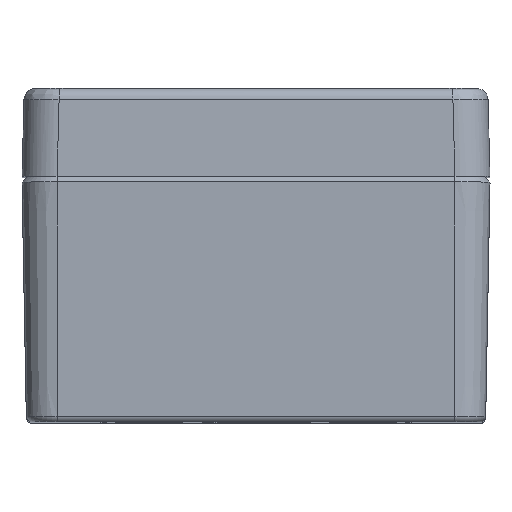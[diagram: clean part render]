
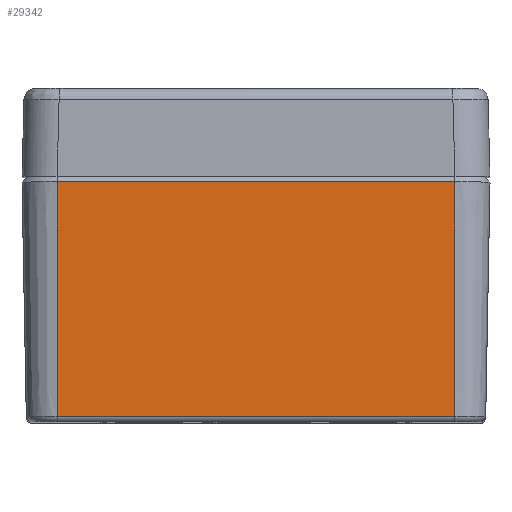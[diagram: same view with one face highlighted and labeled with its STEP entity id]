
A CAD part, top view. The second image highlights one B-rep face of the part: STEP entity #29342.
In plain terms, the highlighted planar face has unit normal (0, -0.018, 1).
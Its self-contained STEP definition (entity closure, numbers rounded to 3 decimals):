
#2218 = PLANE ( 'NONE',  #43049 ) ;
#4224 = ORIENTED_EDGE ( 'NONE', *, *, #7750, .F. ) ;
#4920 = EDGE_CURVE ( 'NONE', #5351, #37313, #44729, .T. ) ;
#5351 = VERTEX_POINT ( 'NONE', #27929 ) ;
#6010 = DIRECTION ( 'NONE',  ( 0., -1., -0.018 ) ) ;
#6394 = CARTESIAN_POINT ( 'NONE',  ( 34., 20., 87.5 ) ) ;
#6606 = EDGE_LOOP ( 'NONE', ( #39719, #43792, #16274, #4224 ) ) ;
#7430 = CARTESIAN_POINT ( 'NONE',  ( -34., 20., 87.5 ) ) ;
#7750 = EDGE_CURVE ( 'NONE', #37625, #5351, #38350, .T. ) ;
#7874 = CARTESIAN_POINT ( 'NONE',  ( 34., -20.018, 86.768 ) ) ;
#16274 = ORIENTED_EDGE ( 'NONE', *, *, #4920, .F. ) ;
#18261 = FACE_OUTER_BOUND ( 'NONE', #6606, .T. ) ;
#18620 = CARTESIAN_POINT ( 'NONE',  ( -42.851, 20., 87.5 ) ) ;
#18929 = VECTOR ( 'NONE', #24034, 1000. ) ;
#19428 = DIRECTION ( 'NONE',  ( 0., -0.018, 1. ) ) ;
#22098 = VECTOR ( 'NONE', #26730, 1000. ) ;
#24034 = DIRECTION ( 'NONE',  ( -1., 0., 0. ) ) ;
#25438 = CARTESIAN_POINT ( 'NONE',  ( 34., 20., 87.5 ) ) ;
#26730 = DIRECTION ( 'NONE',  ( -1., 0., 0. ) ) ;
#26821 = CARTESIAN_POINT ( 'NONE',  ( -42.851, 20., 87.5 ) ) ;
#27929 = CARTESIAN_POINT ( 'NONE',  ( -34., -20.018, 86.768 ) ) ;
#29073 = CARTESIAN_POINT ( 'NONE',  ( 34., -20.018, 86.768 ) ) ;
#29342 = ADVANCED_FACE ( 'NONE', ( #18261 ), #2218, .T. ) ;
#31423 = B_SPLINE_CURVE_WITH_KNOTS ( 'NONE', 1,
 ( #25438, #29073 ),
 .UNSPECIFIED., .F., .F.,
 ( 2, 2 ),
 ( 0., 1. ),
 .UNSPECIFIED. ) ;
#33118 = VERTEX_POINT ( 'NONE', #6394 ) ;
#34638 = CARTESIAN_POINT ( 'NONE',  ( 34.374, -20.018, 86.768 ) ) ;
#36738 = CARTESIAN_POINT ( 'NONE',  ( -34., 20., 87.5 ) ) ;
#37273 = EDGE_CURVE ( 'NONE', #33118, #37625, #31423, .T. ) ;
#37313 = VERTEX_POINT ( 'NONE', #36738 ) ;
#37625 = VERTEX_POINT ( 'NONE', #7874 ) ;
#37781 = CARTESIAN_POINT ( 'NONE',  ( -34., -20.018, 86.768 ) ) ;
#38350 = LINE ( 'NONE', #34638, #18929 ) ;
#39719 = ORIENTED_EDGE ( 'NONE', *, *, #37273, .F. ) ;
#39920 = LINE ( 'NONE', #18620, #22098 ) ;
#43049 = AXIS2_PLACEMENT_3D ( 'NONE', #26821, #19428, #6010 ) ;
#43792 = ORIENTED_EDGE ( 'NONE', *, *, #43912, .T. ) ;
#43912 = EDGE_CURVE ( 'NONE', #33118, #37313, #39920, .T. ) ;
#44729 = B_SPLINE_CURVE_WITH_KNOTS ( 'NONE', 1,
 ( #37781, #7430 ),
 .UNSPECIFIED., .F., .F.,
 ( 2, 2 ),
 ( 0., 1. ),
 .UNSPECIFIED. ) ;
